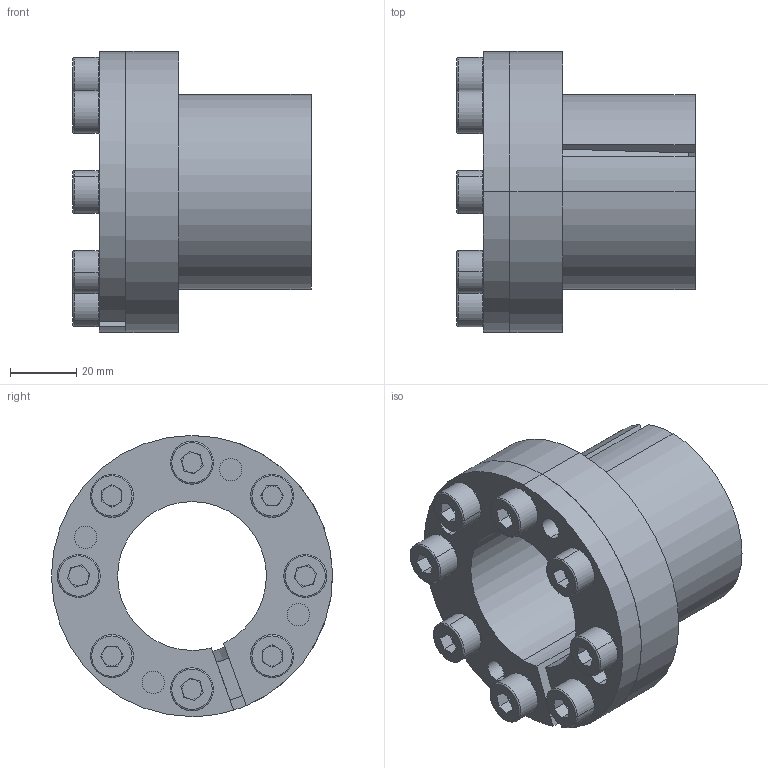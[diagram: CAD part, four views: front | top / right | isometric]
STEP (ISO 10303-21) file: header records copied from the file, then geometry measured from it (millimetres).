
FILE_DESCRIPTION (( 'STEP AP203' ), '1' );
FILE_NAME ('T-45-59.STEP', '2017-10-13T08:09:00', ( 'MYCOM' ), ( '' ), 'SwSTEP 2.0', 'SolidWorks 2015', '' );
FILE_SCHEMA (( 'CONFIG_CONTROL_DESIGN' ));
Length unit declared in the file: millimetre
Products named in the file (1): T-45-59
Bounding box: 72 x 85 x 85 mm (x, y, z)
Surface area: 66360.6 mm2 (no closed solid volume)
Topology: 0 solids, 19 shells, 229 faces, 598 edges, 382 vertices
Faces by surface type: plane 116, cylinder 75, torus 32, cone 6
Entity records: 7189 total; most frequent: DIRECTION 1358, CARTESIAN_POINT 1228, ORIENTED_EDGE 1086, EDGE_CURVE 598, AXIS2_PLACEMENT_3D 534, VERTEX_POINT 382, CIRCLE 304, LINE 290
